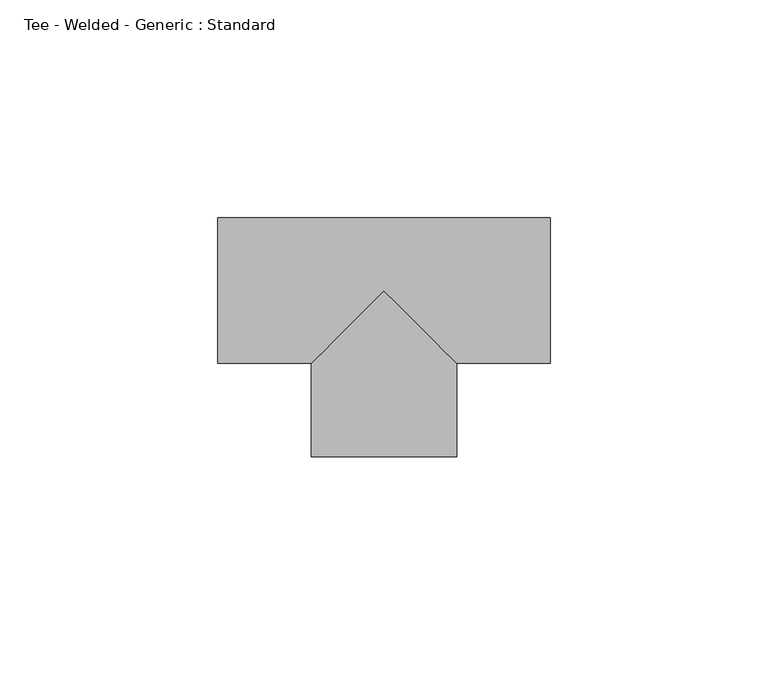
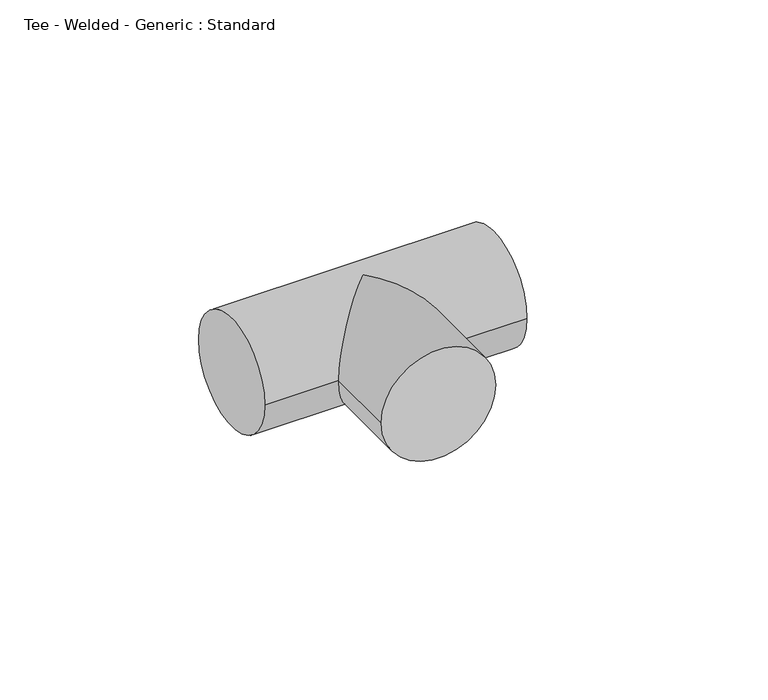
"""IFC4 building model written with IfcOpenShell, lengths in millimetres: pipe fitting geometry, Tee - Welded - Generic : Standard."""

from ifc_helpers import new_model, si_unit, frame, origin, place, context, project, spatial, circle_curve, ellipse_curve, source, transform, mapped, element, save
from ifc_brep_helpers import plane_surface, cylinder_surface, advanced_brep


def tee_welded_generic_standard_2212bf6c(model_context):
    return source(origin(), model_context, "Body", "AdvancedBrep", [
        advanced_brep(
        [(-38.1, -16.66875, 0.0), (-38.1, 16.66875, 0.0), (38.1, -16.66875, 0.0), (38.1, 16.66875, 0.0), (-16.6688379, -16.66875, 0.0), (0.0, 0.0, 16.66875), (16.6686621, -16.66875, 0.0), (0.0, 0.0, -16.66875), (-16.6689509, -38.0999121, 0.0), (16.6685491, -38.1000879, 0.0)],
        [
            (0, 1, circle_curve(frame((-38.1, 0.0, 0.0), z_axis=(-1.0, 0.0, 0.0), x_axis=(0.0, 1.0, 0.0)), 16.66875)),
            (1, 0, circle_curve(frame((-38.1, 0.0, 0.0), z_axis=(-1.0, 0.0, 0.0), x_axis=(0.0, 1.0, 0.0)), 16.66875)),
            (2, 3, circle_curve(frame((38.1, 0.0, 0.0), z_axis=(1.0, 0.0, 0.0), x_axis=(0.0, 1.0, 0.0)), 16.66875)),
            (3, 2, circle_curve(frame((38.1, 0.0, 0.0), z_axis=(1.0, 0.0, 0.0), x_axis=(0.0, 1.0, 0.0)), 16.66875)),
            (0, 4),
            (4, 5, ellipse_curve(frame((0.0, 0.0, 0.0), z_axis=(-0.7071049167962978, 0.7071086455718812, 0.0), x_axis=(-0.7071086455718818, -0.7071049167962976, 0.0)), 23.5732345, 16.66875)),
            (5, 6, ellipse_curve(frame((0.0, 0.0, 0.0), z_axis=(0.7071086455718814, 0.707104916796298, 0.0), x_axis=(-0.7071049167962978, 0.7071086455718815, 0.0)), 23.5731102, 16.66875)),
            (6, 2),
            (3, 1),
            (6, 7, ellipse_curve(frame((0.0, 0.0, 0.0), z_axis=(0.7071086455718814, 0.707104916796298, 0.0), x_axis=(-0.7071049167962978, 0.7071086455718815, 0.0)), 23.5731102, 16.66875)),
            (7, 4, ellipse_curve(frame((0.0, 0.0, 0.0), z_axis=(-0.7071049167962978, 0.7071086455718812, 0.0), x_axis=(-0.7071086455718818, -0.7071049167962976, 0.0)), 23.5732345, 16.66875)),
            (8, 9, circle_curve(frame((-0.0002009, -38.1, 0.0), z_axis=(-5.2732849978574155e-06, -0.9999999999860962, 0.0), x_axis=(0.9999999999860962, -5.2732849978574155e-06, 0.0)), 16.66875)),
            (9, 8, circle_curve(frame((-0.0002009, -38.1, 0.0), z_axis=(-5.2732849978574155e-06, -0.9999999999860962, 0.0), x_axis=(0.9999999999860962, -5.2732849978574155e-06, 0.0)), 16.66875)),
            (9, 6),
            (4, 8),
        ],
        [
            plane_surface(frame((-38.1, 0.0, 0.0), z_axis=(-1.0, 0.0, 0.0), x_axis=(0.0, 0.0, 1.0))),
            plane_surface(frame((38.1, 0.0, 0.0), z_axis=(1.0, 0.0, 0.0), x_axis=(0.0, 0.0, 1.0))),
            cylinder_surface(frame((-38.1, 0.0, 0.0), z_axis=(-1.0, 0.0, 0.0), x_axis=(0.0, 1.0, 0.0)), 16.66875),
            plane_surface(frame((-0.0002009, -38.1, 0.0), z_axis=(-5.2732849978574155e-06, -0.9999999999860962, 0.0), x_axis=(0.0, 0.0, 1.0))),
            cylinder_surface(frame((0.0, 0.0, 0.0), z_axis=(5.2732849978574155e-06, 0.9999999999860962, 0.0), x_axis=(0.9999999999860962, -5.2732849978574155e-06, 0.0)), 16.66875),
        ],
        [
            (0, [[1, 2]]),
            (1, [[3, 4]]),
            (2, [[-1, 5, 6, 7, 8, -4, 9]]),
            (2, [[-2, -9, -3, -8, 10, 11, -5]]),
            (3, [[12, 13]]),
            (4, [[-13, 14, -7, -6, 15]]),
            (4, [[-12, -15, -11, -10, -14]]),
        ],
    ),
    ])


if __name__ == "__main__":
    model = new_model("IFC4")
    model_context = context("Model", 3, world=origin())
    ifc_project = project(units=[si_unit("LENGTHUNIT", "METRE", prefix="MILLI")], contexts=[model_context])
    site = spatial("IfcSite", under=ifc_project)
    building = spatial("IfcBuilding", under=site)
    placement = place(None, origin())
    tee_welded_generic_standard_shape = tee_welded_generic_standard_2212bf6c(model_context)
    element("IfcPipeFitting", 1, ObjectType="Tee - Welded - Generic : Standard", at=placement, inside=building, context=model_context, shape_type="MappedRepresentation", body=[
        mapped(tee_welded_generic_standard_shape, transform((0.0, 0.0, 0.0), x_axis=(1.0, 0.0, 0.0), y_axis=(0.0, 1.0, 0.0), z_axis=(0.0, 0.0, 1.0))),
    ])
    save(model, "model.ifc")
